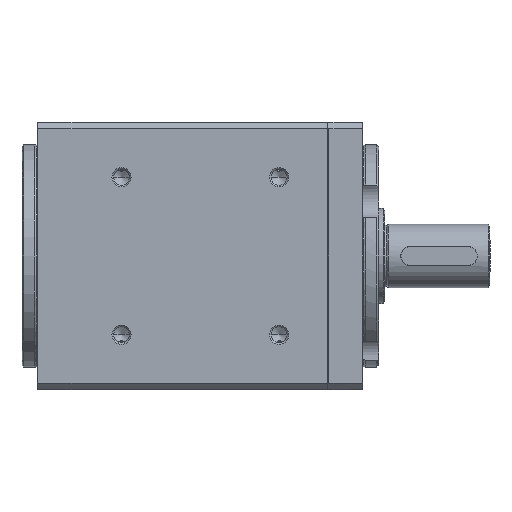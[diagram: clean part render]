
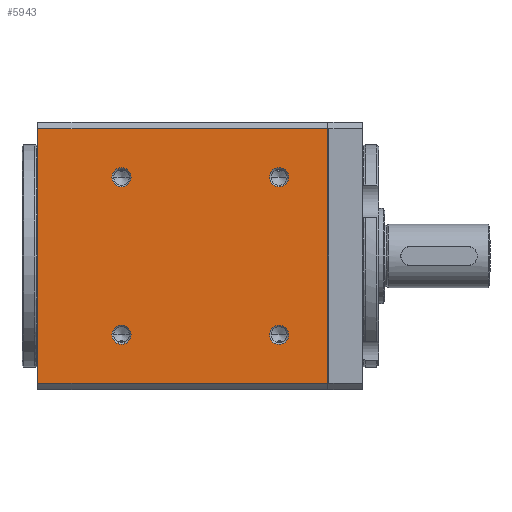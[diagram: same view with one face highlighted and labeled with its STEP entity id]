
A CAD part, left-side view. The second image highlights one B-rep face of the part: STEP entity #5943.
In plain terms, the highlighted planar face has unit normal (-1, 0, 0).
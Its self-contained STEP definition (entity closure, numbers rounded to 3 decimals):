
#162 = ORIENTED_EDGE ( 'NONE', *, *, #10612, .T. ) ;
#163 = ORIENTED_EDGE ( 'NONE', *, *, #10835, .T. ) ;
#164 = ORIENTED_EDGE ( 'NONE', *, *, #10619, .T. ) ;
#165 = ORIENTED_EDGE ( 'NONE', *, *, #10834, .T. ) ;
#166 = ORIENTED_EDGE ( 'NONE', *, *, #10635, .T. ) ;
#167 = ORIENTED_EDGE ( 'NONE', *, *, #10833, .T. ) ;
#168 = ORIENTED_EDGE ( 'NONE', *, *, #10628, .T. ) ;
#169 = ORIENTED_EDGE ( 'NONE', *, *, #10832, .T. ) ;
#170 = ORIENTED_EDGE ( 'NONE', *, *, #10794, .F. ) ;
#965 = AXIS2_PLACEMENT_3D ( 'NONE', #17930, #17934, #17935 ) ;
#1519 = CIRCLE ( 'NONE', #1526, 1.5 ) ;
#1526 = AXIS2_PLACEMENT_3D ( 'NONE', #23014, #23015, #23016 ) ;
#1536 = CIRCLE ( 'NONE', #1542, 1.5 ) ;
#1542 = AXIS2_PLACEMENT_3D ( 'NONE', #23033, #23034, #23035 ) ;
#1560 = CIRCLE ( 'NONE', #1566, 1.5 ) ;
#1566 = AXIS2_PLACEMENT_3D ( 'NONE', #23060, #23061, #23062 ) ;
#1580 = CIRCLE ( 'NONE', #1586, 1.5 ) ;
#1586 = AXIS2_PLACEMENT_3D ( 'NONE', #23080, #23081, #23082 ) ;
#4077 = ORIENTED_EDGE ( 'NONE', *, *, #10830, .T. ) ;
#4078 = ORIENTED_EDGE ( 'NONE', *, *, #10822, .T. ) ;
#4079 = ORIENTED_EDGE ( 'NONE', *, *, #10828, .T. ) ;
#5943 = ADVANCED_FACE ( 'NONE', ( #17922, #17929, #17931, #17926, #17927 ), #17933, .T. ) ;
#8515 = LINE ( 'NONE', #8518, #20278 ) ;
#8518 = CARTESIAN_POINT ( 'NONE',  ( -21., 26.5, 0. ) ) ;
#8520 = DIRECTION ( 'NONE',  ( 0., 0., 1. ) ) ;
#8722 = CARTESIAN_POINT ( 'NONE',  ( -21., -19., 0. ) ) ;
#8738 = LINE ( 'NONE', #8722, #20302 ) ;
#8747 = DIRECTION ( 'NONE',  ( 0., 0., 1. ) ) ;
#8751 = LINE ( 'NONE', #8752, #20322 ) ;
#8752 = CARTESIAN_POINT ( 'NONE',  ( -21., 3.75, 20. ) ) ;
#8788 = DIRECTION ( 'NONE',  ( 0., 1., 0. ) ) ;
#8795 = LINE ( 'NONE', #8798, #20325 ) ;
#8798 = CARTESIAN_POINT ( 'NONE',  ( -21., 3.75, -20. ) ) ;
#8800 = DIRECTION ( 'NONE',  ( 0., -1., 0. ) ) ;
#8814 = CARTESIAN_POINT ( 'NONE',  ( -21., 13.374, -12.374 ) ) ;
#8816 = DIRECTION ( 'NONE',  ( 1., 0., 0. ) ) ;
#8818 = DIRECTION ( 'NONE',  ( 0., -1., 0. ) ) ;
#8822 = CARTESIAN_POINT ( 'NONE',  ( -21., 13.374, 12.374 ) ) ;
#8823 = DIRECTION ( 'NONE',  ( 1., 0., 0. ) ) ;
#8824 = DIRECTION ( 'NONE',  ( 0., -1., 0. ) ) ;
#8828 = CARTESIAN_POINT ( 'NONE',  ( -21., -11.374, 12.374 ) ) ;
#8830 = DIRECTION ( 'NONE',  ( 1., 0., 0. ) ) ;
#8832 = DIRECTION ( 'NONE',  ( 0., -1., 0. ) ) ;
#8838 = CARTESIAN_POINT ( 'NONE',  ( -21., -11.374, -12.374 ) ) ;
#8840 = DIRECTION ( 'NONE',  ( 1., 0., 0. ) ) ;
#8842 = DIRECTION ( 'NONE',  ( 0., -1., 0. ) ) ;
#9379 = CARTESIAN_POINT ( 'NONE',  ( -21., 26.5, -20. ) ) ;
#9393 = CARTESIAN_POINT ( 'NONE',  ( -21., -19., 20. ) ) ;
#9419 = CARTESIAN_POINT ( 'NONE',  ( -21., -19., -20. ) ) ;
#9481 = CARTESIAN_POINT ( 'NONE',  ( -21., 26.5, 20. ) ) ;
#10612 = EDGE_CURVE ( 'NONE', #24583, #24644, #1519, .T. ) ;
#10619 = EDGE_CURVE ( 'NONE', #24658, #24611, #1536, .T. ) ;
#10628 = EDGE_CURVE ( 'NONE', #24647, #24593, #1560, .T. ) ;
#10635 = EDGE_CURVE ( 'NONE', #24659, #24642, #1580, .T. ) ;
#10794 = EDGE_CURVE ( 'NONE', #13404, #13458, #8515, .T. ) ;
#10822 = EDGE_CURVE ( 'NONE', #13424, #13411, #8738, .T. ) ;
#10828 = EDGE_CURVE ( 'NONE', #13411, #13458, #8751, .T. ) ;
#10830 = EDGE_CURVE ( 'NONE', #13404, #13424, #8795, .T. ) ;
#10832 = EDGE_CURVE ( 'NONE', #24593, #24647, #20327, .T. ) ;
#10833 = EDGE_CURVE ( 'NONE', #24642, #24659, #20329, .T. ) ;
#10834 = EDGE_CURVE ( 'NONE', #24611, #24658, #20331, .T. ) ;
#10835 = EDGE_CURVE ( 'NONE', #24644, #24583, #20333, .T. ) ;
#11200 = EDGE_LOOP ( 'NONE', ( #170, #4077, #4078, #4079 ) ) ;
#11201 = EDGE_LOOP ( 'NONE', ( #164, #165 ) ) ;
#11205 = EDGE_LOOP ( 'NONE', ( #168, #169 ) ) ;
#11206 = EDGE_LOOP ( 'NONE', ( #162, #163 ) ) ;
#11214 = EDGE_LOOP ( 'NONE', ( #166, #167 ) ) ;
#13404 = VERTEX_POINT ( 'NONE', #9379 ) ;
#13411 = VERTEX_POINT ( 'NONE', #9393 ) ;
#13424 = VERTEX_POINT ( 'NONE', #9419 ) ;
#13458 = VERTEX_POINT ( 'NONE', #9481 ) ;
#17922 = FACE_BOUND ( 'NONE', #11206, .T. ) ;
#17926 = FACE_BOUND ( 'NONE', #11205, .T. ) ;
#17927 = FACE_OUTER_BOUND ( 'NONE', #11200, .T. ) ;
#17929 = FACE_BOUND ( 'NONE', #11201, .T. ) ;
#17930 = CARTESIAN_POINT ( 'NONE',  ( -21., -19., -20. ) ) ;
#17931 = FACE_BOUND ( 'NONE', #11214, .T. ) ;
#17933 = PLANE ( 'NONE',  #965 ) ;
#17934 = DIRECTION ( 'NONE',  ( -1., 0., 0. ) ) ;
#17935 = DIRECTION ( 'NONE',  ( 0., 0., 1. ) ) ;
#20278 = VECTOR ( 'NONE', #8520, 1000. ) ;
#20302 = VECTOR ( 'NONE', #8747, 1000. ) ;
#20322 = VECTOR ( 'NONE', #8788, 1000. ) ;
#20325 = VECTOR ( 'NONE', #8800, 1000. ) ;
#20327 = CIRCLE ( 'NONE', #20330, 1.5 ) ;
#20329 = CIRCLE ( 'NONE', #20332, 1.5 ) ;
#20330 = AXIS2_PLACEMENT_3D ( 'NONE', #8814, #8816, #8818 ) ;
#20331 = CIRCLE ( 'NONE', #20334, 1.5 ) ;
#20332 = AXIS2_PLACEMENT_3D ( 'NONE', #8822, #8823, #8824 ) ;
#20333 = CIRCLE ( 'NONE', #20336, 1.5 ) ;
#20334 = AXIS2_PLACEMENT_3D ( 'NONE', #8828, #8830, #8832 ) ;
#20336 = AXIS2_PLACEMENT_3D ( 'NONE', #8838, #8840, #8842 ) ;
#23014 = CARTESIAN_POINT ( 'NONE',  ( -21., -11.374, -12.374 ) ) ;
#23015 = DIRECTION ( 'NONE',  ( 1., 0., 0. ) ) ;
#23016 = DIRECTION ( 'NONE',  ( 0., -1., 0. ) ) ;
#23033 = CARTESIAN_POINT ( 'NONE',  ( -21., -11.374, 12.374 ) ) ;
#23034 = DIRECTION ( 'NONE',  ( 1., 0., 0. ) ) ;
#23035 = DIRECTION ( 'NONE',  ( 0., -1., 0. ) ) ;
#23060 = CARTESIAN_POINT ( 'NONE',  ( -21., 13.374, -12.374 ) ) ;
#23061 = DIRECTION ( 'NONE',  ( 1., 0., 0. ) ) ;
#23062 = DIRECTION ( 'NONE',  ( 0., -1., 0. ) ) ;
#23080 = CARTESIAN_POINT ( 'NONE',  ( -21., 13.374, 12.374 ) ) ;
#23081 = DIRECTION ( 'NONE',  ( 1., 0., 0. ) ) ;
#23082 = DIRECTION ( 'NONE',  ( 0., -1., 0. ) ) ;
#24583 = VERTEX_POINT ( 'NONE', #31814 ) ;
#24593 = VERTEX_POINT ( 'NONE', #31824 ) ;
#24611 = VERTEX_POINT ( 'NONE', #31842 ) ;
#24642 = VERTEX_POINT ( 'NONE', #31873 ) ;
#24644 = VERTEX_POINT ( 'NONE', #31875 ) ;
#24647 = VERTEX_POINT ( 'NONE', #31878 ) ;
#24658 = VERTEX_POINT ( 'NONE', #31889 ) ;
#24659 = VERTEX_POINT ( 'NONE', #31890 ) ;
#31814 = CARTESIAN_POINT ( 'NONE',  ( -21., -12.874, -12.374 ) ) ;
#31824 = CARTESIAN_POINT ( 'NONE',  ( -21., 14.874, -12.374 ) ) ;
#31842 = CARTESIAN_POINT ( 'NONE',  ( -21., -9.874, 12.374 ) ) ;
#31873 = CARTESIAN_POINT ( 'NONE',  ( -21., 14.874, 12.374 ) ) ;
#31875 = CARTESIAN_POINT ( 'NONE',  ( -21., -9.874, -12.374 ) ) ;
#31878 = CARTESIAN_POINT ( 'NONE',  ( -21., 11.874, -12.374 ) ) ;
#31889 = CARTESIAN_POINT ( 'NONE',  ( -21., -12.874, 12.374 ) ) ;
#31890 = CARTESIAN_POINT ( 'NONE',  ( -21., 11.874, 12.374 ) ) ;
